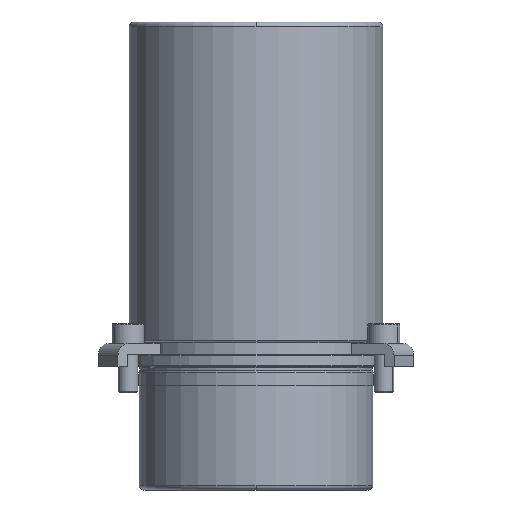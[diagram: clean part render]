
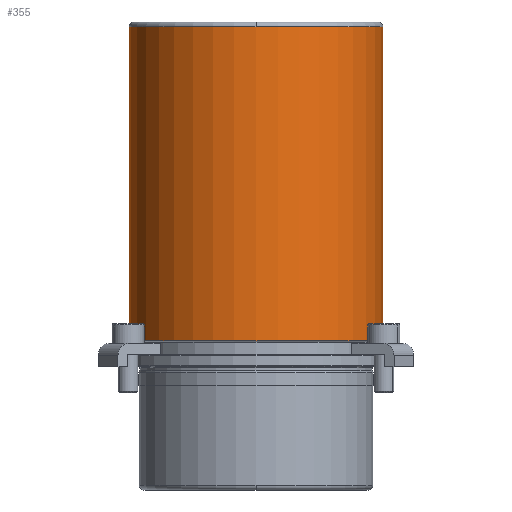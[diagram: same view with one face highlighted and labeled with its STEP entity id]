
A CAD part, front view. The second image highlights one B-rep face of the part: STEP entity #355.
In plain terms, the highlighted cylindrical face has radius 51.5 mm (diameter 103 mm), a partial arc.
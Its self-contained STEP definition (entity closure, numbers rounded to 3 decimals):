
#269=CARTESIAN_POINT('',(0.0,-51.5,138.0));
#270=VERTEX_POINT('',#269);
#296=CARTESIAN_POINT('',(-51.5,0.,138.0));
#297=VERTEX_POINT('',#296);
#305=CARTESIAN_POINT('',(0.0,0.,138.0));
#306=DIRECTION('',(0.0,0.0,1.0));
#307=DIRECTION('',(1.0,0.0,0.0));
#308=AXIS2_PLACEMENT_3D('',#305,#306,#307);
#309=CIRCLE('',#308,51.5);
#310=EDGE_CURVE('',#297,#270,#309,.T.);
#315=CARTESIAN_POINT('',(0.0,0.,74.25));
#316=DIRECTION('',(0.0,0.,1.0));
#317=DIRECTION('',(1.0,0.0,0.0));
#318=AXIS2_PLACEMENT_3D('',#315,#316,#317);
#319=CYLINDRICAL_SURFACE('',#318,51.5);
#320=CARTESIAN_POINT('',(51.5,0.,138.0));
#321=VERTEX_POINT('',#320);
#322=CARTESIAN_POINT('',(51.5,0.,10.5));
#323=VERTEX_POINT('',#322);
#324=CARTESIAN_POINT('',(51.5,0.,138.0));
#325=DIRECTION('',(0.0,0.0,-1.0));
#326=VECTOR('',#325,127.5);
#327=LINE('',#324,#326);
#328=EDGE_CURVE('',#321,#323,#327,.T.);
#329=ORIENTED_EDGE('',*,*,#328,.F.);
#330=CARTESIAN_POINT('',(0.0,0.,138.0));
#331=DIRECTION('',(0.0,0.0,1.0));
#332=DIRECTION('',(1.0,0.0,0.0));
#333=AXIS2_PLACEMENT_3D('',#330,#331,#332);
#334=CIRCLE('',#333,51.5);
#335=EDGE_CURVE('',#270,#321,#334,.T.);
#336=ORIENTED_EDGE('',*,*,#335,.F.);
#337=ORIENTED_EDGE('',*,*,#310,.F.);
#338=CARTESIAN_POINT('',(-51.5,0.,10.5));
#339=VERTEX_POINT('',#338);
#340=CARTESIAN_POINT('',(-51.5,0.,138.0));
#341=DIRECTION('',(0.0,0.0,-1.0));
#342=VECTOR('',#341,127.5);
#343=LINE('',#340,#342);
#344=EDGE_CURVE('',#297,#339,#343,.T.);
#345=ORIENTED_EDGE('',*,*,#344,.T.);
#346=CARTESIAN_POINT('',(0.0,0.,10.5));
#347=DIRECTION('',(0.0,0.0,1.0));
#348=DIRECTION('',(1.0,0.0,0.0));
#349=AXIS2_PLACEMENT_3D('',#346,#347,#348);
#350=CIRCLE('',#349,51.5);
#351=EDGE_CURVE('',#339,#323,#350,.T.);
#352=ORIENTED_EDGE('',*,*,#351,.T.);
#353=EDGE_LOOP('',(#329,#336,#337,#345,#352));
#354=FACE_OUTER_BOUND('',#353,.T.);
#355=ADVANCED_FACE('',(#354),#319,.T.);
